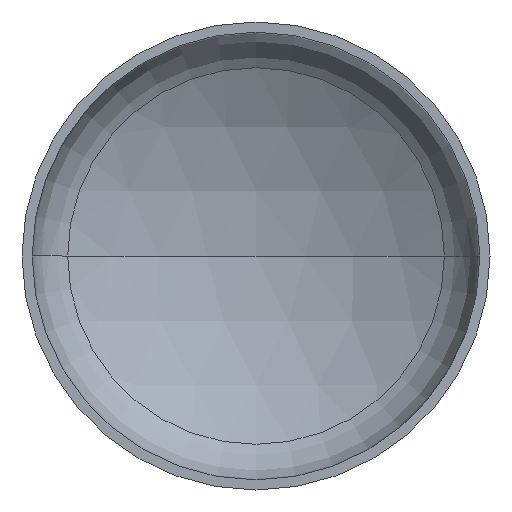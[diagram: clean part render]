
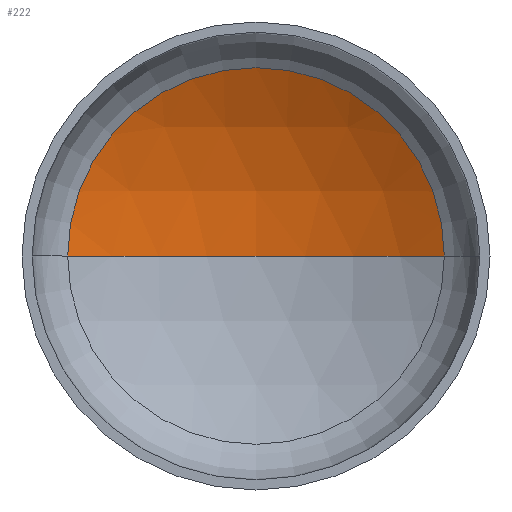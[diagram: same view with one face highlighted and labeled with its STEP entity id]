
A CAD part, front view. The second image highlights one B-rep face of the part: STEP entity #222.
In plain terms, the highlighted spherical face has radius 1440 mm.
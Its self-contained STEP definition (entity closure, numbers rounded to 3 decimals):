
#10 = EDGE_LOOP ( 'NONE', ( #81, #39, #94 ) ) ;
#20 = CIRCLE ( 'NONE', #22, 1440. ) ;
#22 = AXIS2_PLACEMENT_3D ( 'NONE', #204, #292, #123 ) ;
#30 = VERTEX_POINT ( 'NONE', #269 ) ;
#39 = ORIENTED_EDGE ( 'NONE', *, *, #165, .T. ) ;
#47 = VERTEX_POINT ( 'NONE', #288 ) ;
#54 = AXIS2_PLACEMENT_3D ( 'NONE', #247, #197, #198 ) ;
#73 = AXIS2_PLACEMENT_3D ( 'NONE', #265, #264, #282 ) ;
#77 = AXIS2_PLACEMENT_3D ( 'NONE', #217, #235, #232 ) ;
#81 = ORIENTED_EDGE ( 'NONE', *, *, #355, .F. ) ;
#91 = FACE_OUTER_BOUND ( 'NONE', #10, .T. ) ;
#94 = ORIENTED_EDGE ( 'NONE', *, *, #158, .T. ) ;
#115 = VERTEX_POINT ( 'NONE', #375 ) ;
#123 = DIRECTION ( 'NONE',  ( 1., 0., 0. ) ) ;
#143 = CIRCLE ( 'NONE', #77, 724.326 ) ;
#158 = EDGE_CURVE ( 'NONE', #47, #115, #143, .T. ) ;
#165 = EDGE_CURVE ( 'NONE', #30, #47, #385, .T. ) ;
#197 = DIRECTION ( 'NONE',  ( 0., 0., -1. ) ) ;
#198 = DIRECTION ( 'NONE',  ( -1., 0., 0. ) ) ;
#204 = CARTESIAN_POINT ( 'NONE',  ( 0., -886.891, 0. ) ) ;
#217 = CARTESIAN_POINT ( 'NONE',  ( 0., 357.678, 0. ) ) ;
#222 = ADVANCED_FACE ( 'NONE', ( #91 ), #379, .F. ) ;
#232 = DIRECTION ( 'NONE',  ( 1., 0., 0. ) ) ;
#235 = DIRECTION ( 'NONE',  ( 0., -1., 0. ) ) ;
#247 = CARTESIAN_POINT ( 'NONE',  ( 0., -886.891, 0. ) ) ;
#264 = DIRECTION ( 'NONE',  ( 0., 0., -1. ) ) ;
#265 = CARTESIAN_POINT ( 'NONE',  ( 0., -886.891, 0. ) ) ;
#269 = CARTESIAN_POINT ( 'NONE',  ( 0., 553.109, 0. ) ) ;
#282 = DIRECTION ( 'NONE',  ( -1., 0., 0. ) ) ;
#288 = CARTESIAN_POINT ( 'NONE',  ( 724.326, 357.678, 0. ) ) ;
#292 = DIRECTION ( 'NONE',  ( 0., 0., 1. ) ) ;
#355 = EDGE_CURVE ( 'NONE', #30, #115, #20, .T. ) ;
#375 = CARTESIAN_POINT ( 'NONE',  ( -724.326, 357.678, 0. ) ) ;
#379 = SPHERICAL_SURFACE ( 'NONE', #54, 1440. ) ;
#385 = CIRCLE ( 'NONE', #73, 1440. ) ;
